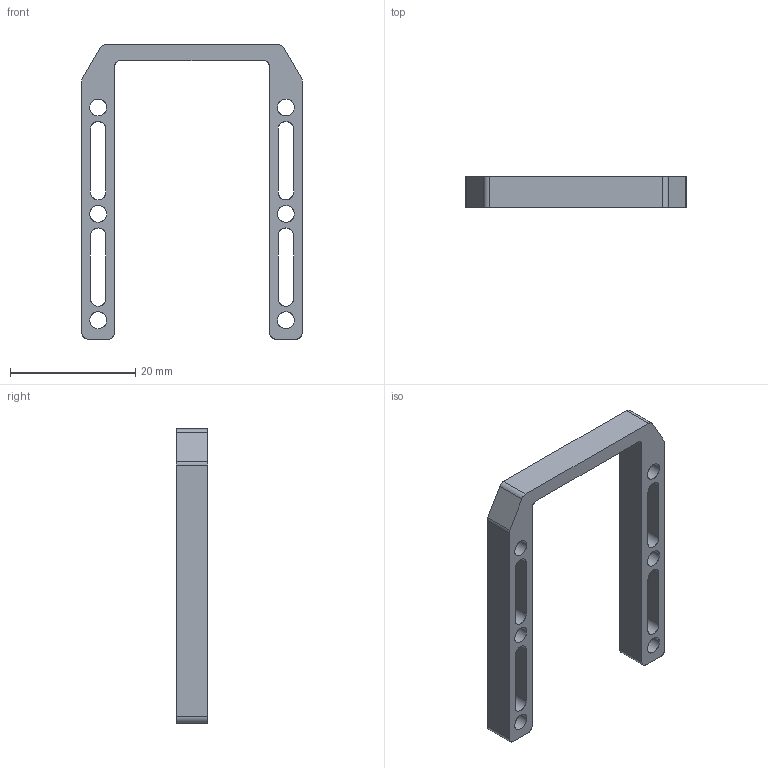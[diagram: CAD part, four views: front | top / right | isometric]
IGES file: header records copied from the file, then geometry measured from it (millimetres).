
Global section: file name: C:\Users\Knabe\Documents\Classes\8 Semester 8\DARwIn\Deliverables\DARwIn OP\DARwIn OP Part Files\OP 3D CAD Files\3D IGS\6_PR13_B_SPACER_PELV.igs; native system: NX V7.0; preprocessor: SIEMENS PLM Software NX 7.0; date: 20110525.180204; units: millimetre
Bounding box: 35.2 x 5 x 47 mm (x, y, z)
Surface area: 2798.5 mm2 (no closed solid volume)
Topology: 0 solids, 0 shells, 50 faces, 420 edges, 420 vertices
Faces by surface type: bspline 50
